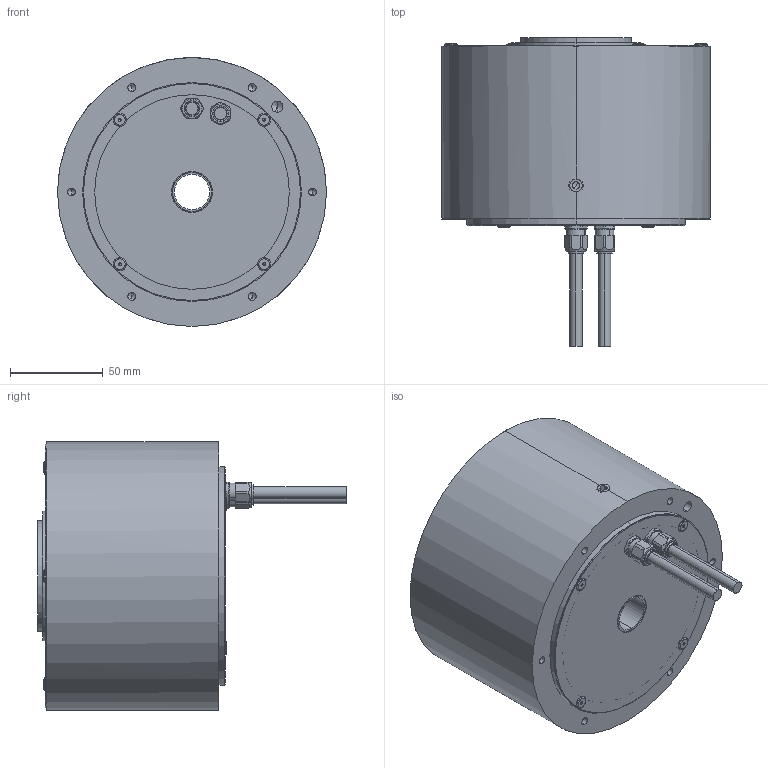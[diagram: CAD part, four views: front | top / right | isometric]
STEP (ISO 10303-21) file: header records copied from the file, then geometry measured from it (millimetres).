
FILE_DESCRIPTION (( 'STEP AP214' ), '1' );
FILE_NAME ('ND140-95-LSP(ABS).step', '2025-03-10T05:46:43', ( '' ), ( '' ), 'SwSTEP 2.0', 'SolidWorks 2024', '' );
FILE_SCHEMA (( 'AUTOMOTIVE_DESIGN' ));
Length unit declared in the file: millimetre
Products named in the file (1): ND140-95-LSP(ABS)
Bounding box: 145 x 166.6 x 145 mm (x, y, z)
Volume: 516224.9 mm3; surface area: 174195.2 mm2
Topology: 19 solids, 19 shells, 637 faces, 1596 edges, 979 vertices
Faces by surface type: cylinder 354, cone 135, plane 96, torus 30, sphere 22
Entity records: 20065 total; most frequent: CARTESIAN_POINT 4815, DIRECTION 3274, ORIENTED_EDGE 3040, EDGE_CURVE 1520, AXIS2_PLACEMENT_3D 1358, VERTEX_POINT 979, EDGE_LOOP 733, CIRCLE 720
